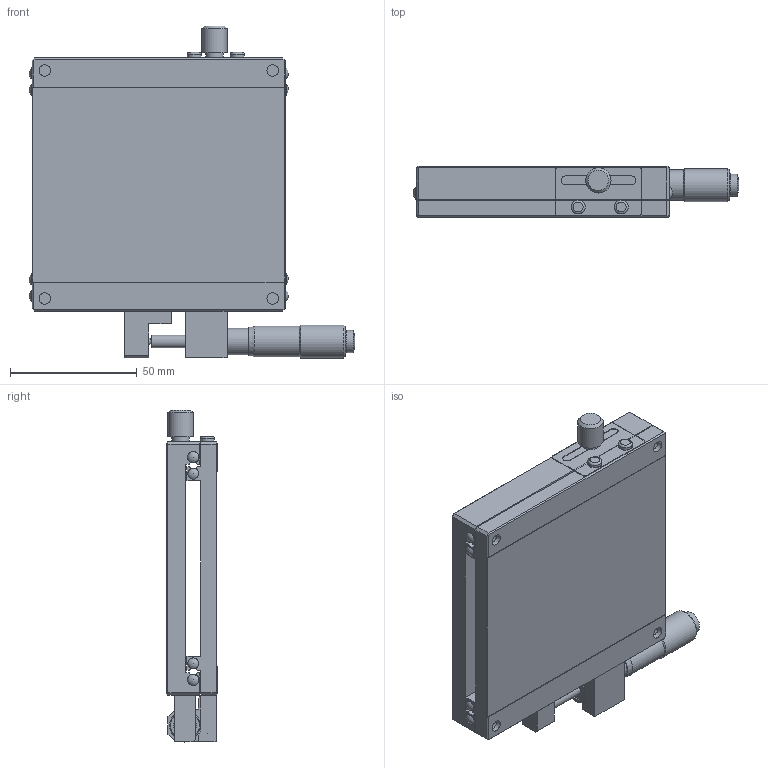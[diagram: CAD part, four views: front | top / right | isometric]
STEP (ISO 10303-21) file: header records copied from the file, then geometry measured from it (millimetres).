
FILE_DESCRIPTION(/* description */ ('STEP AP214'),/* implementation_level */ '2;1');
FILE_NAME(/* name */ 'LBX100-R',/* time_stamp */ '2024-09-23T03:22:49+02:00',/* author */ ('License CC BY-ND 4.0'),/* organization */ ('CADENAS'),/* preprocessor_version */ 'ST-DEVELOPER v19.3',/* originating_system */ 'PARTsolutions',/* authorisation */ ' ');
FILE_SCHEMA (('AUTOMOTIVE_DESIGN {1 0 10303 214 3 1 1}'));
Length unit declared in the file: millimetre
Products named in the file (4): LBX100-R; LB100R_XG; LB100R_SG; MT_WT_25_P_13
Assembly tree (3 placements, depth 2):
  LBX100-R
    LB100R_XG
    LB100R_SG
    MT_WT_25_P_13
Bounding box: 128.7 x 20 x 131.1 mm (x, y, z)
Volume: 161928.4 mm3; surface area: 61246.8 mm2
Topology: 3 solids, 3 shells, 231 faces, 517 edges, 325 vertices
Faces by surface type: plane 139, cylinder 67, cone 11, sphere 10, torus 4
Full cylindrical faces by diameter (mm): 3 x1, 3.242 x16, 4.3 x4, 4.5 x8, 5 x3, 5.5 x6, 6 x4, 7 x1, 8 x4, 8.734 x1, 9 x1, 10 x1, 10.4 x1, 10.6 x1, 12 x1, 12.102 x1, 13.002 x1
Entity records: 5895 total; most frequent: DIRECTION 1058, CARTESIAN_POINT 953, ORIENTED_EDGE 830, EDGE_CURVE 415, AXIS2_PLACEMENT_3D 408, EDGE_LOOP 354, FACE_BOUND 354, VERTEX_POINT 303
